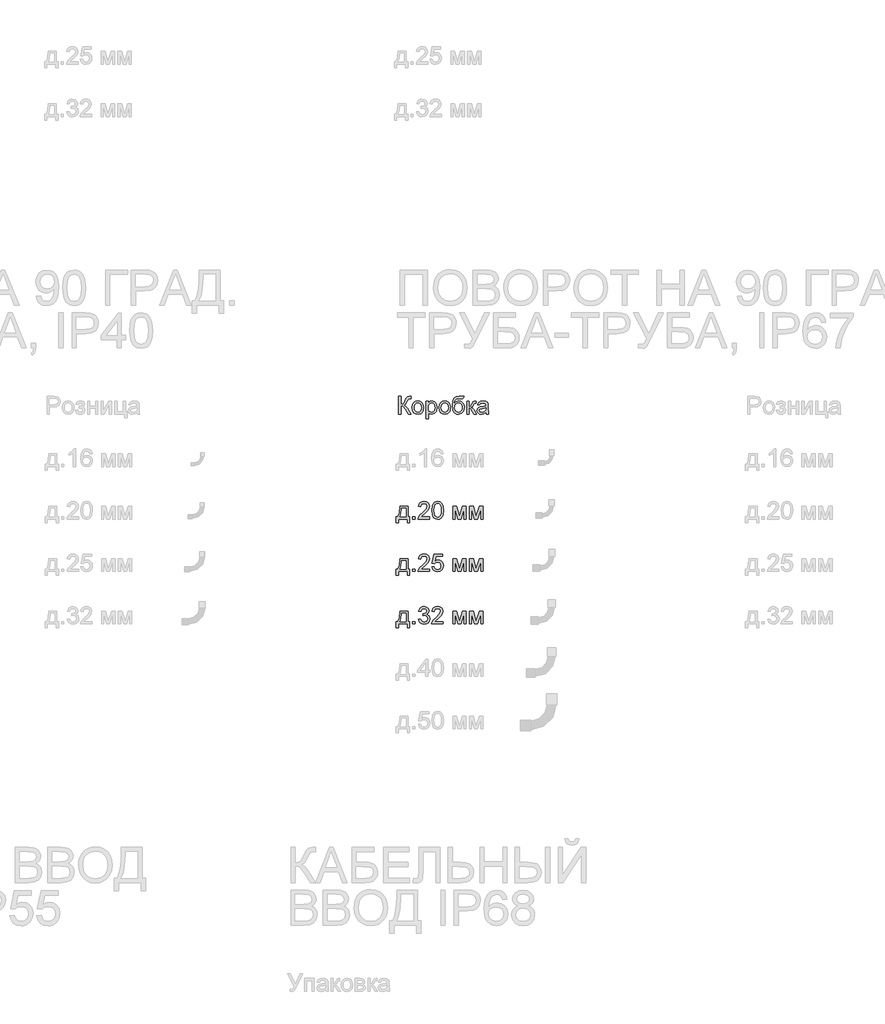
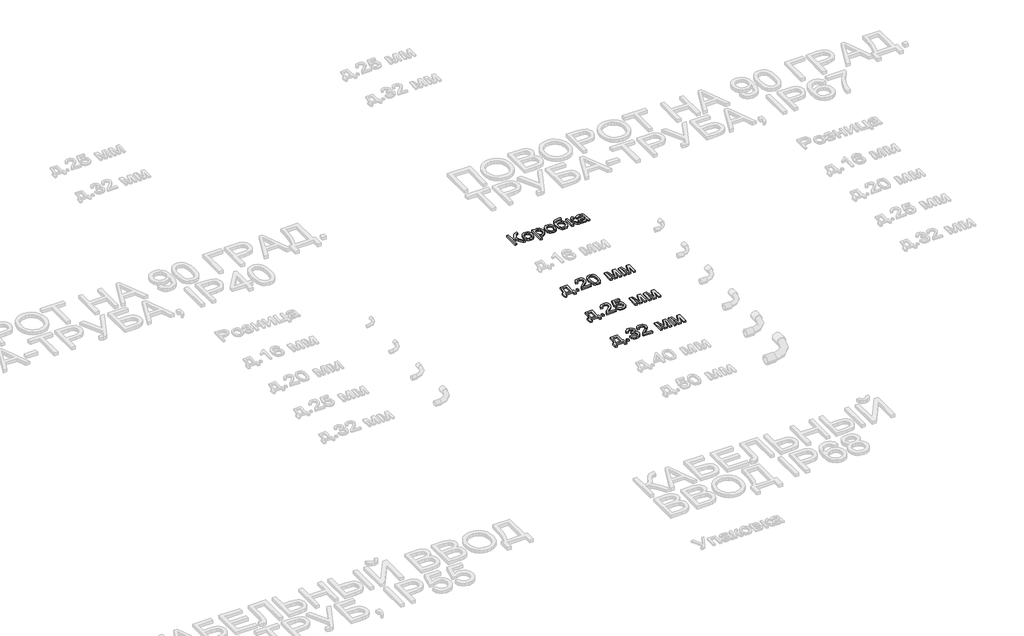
# One storey, part 65 of 98: 4 proxies.
"""IFC4 building model written with IfcOpenShell, lengths in millimetres."""

from ifc_helpers import new_model, si_unit, origin, origin_with_axes, place, context, project, spatial, polyline, outline, extrude, element, save

model = new_model("IFC4")

# Units and contexts
model_context = context("Model", 3, world=origin())
ifc_project = project(units=[si_unit("LENGTHUNIT", "METRE", prefix="MILLI")], contexts=[model_context])

# Site, building, storey
site = spatial("IfcSite", under=ifc_project)
building = spatial("IfcBuilding", under=site)
storey = spatial("IfcBuildingStorey", under=building, Name="Этаж 01", Elevation=0.0)

# Proxies
placement = place(None, origin())
element("IfcBuildingElementProxy", 1, Name="100", ObjectType="100", at=placement, inside=storey, context=model_context, shape_type="SweptSolid", body=[
    extrude(outline(polyline([(3974.2920808, -20659.0558563), (3986.8491196, -20659.0558563), (3986.8491196, -20703.005492), (4000.8899491, -20699.6822913), (4010.6878729, -20682.8700841), (4017.6163171, -20668.8292546), (4025.4644663, -20661.8762849), (4036.6848672, -20659.0558563), (4044.9254239, -20659.2030091), (4044.9254239, -20671.7600479), (4042.1540462, -20671.6864715), (4039.3826685, -20671.6128951), (4029.572482, -20674.6295274), (4022.1167402, -20687.5544482), (4013.2262586, -20703.2997976), (4004.5565063, -20708.4991965), (4014.2501969, -20714.1768419), (4023.8089974, -20726.0103794), (4044.9254239, -20759.5121665), (4030.3572969, -20759.5121665), (4012.5027574, -20731.2097783), (3999.9334559, -20716.4331848), (3986.8491196, -20712.4232711), (3986.8491196, -20759.5121665), (3974.2920808, -20759.5121665), (3974.2920808, -20659.0558563)])), origin_with_axes(), (0.0, 0.0, 1.0), 10.0),
    extrude(outline(polyline([(4051.2039433, -20722.6258651), (4053.9201387, -20704.8387706), (4062.0687249, -20692.3369141), (4072.1364288, -20686.2116789), (4084.1906955, -20684.1699338), (4097.3823307, -20686.656203), (4107.9190842, -20694.1150104), (4114.8260687, -20705.957745), (4117.1283968, -20721.5957955), (4113.0571694, -20743.9384953), (4101.1991064, -20756.5813732), (4084.1906955, -20761.0817963), (4070.8396448, -20758.6047242), (4060.315154, -20751.1735079), (4053.481746, -20739.082453), (4051.2039433, -20722.6258651)]), holes=[polyline([(4063.760982, -20722.6013396), (4065.2141159, -20733.9658276), (4069.5735176, -20742.0622972), (4076.1340798, -20746.9091424), (4084.1906955, -20748.5247575), (4092.210523, -20746.8999454), (4098.7588225, -20742.025509), (4103.1182242, -20733.8217405), (4104.571358, -20722.2089321), (4103.1090271, -20711.175538), (4098.7220343, -20703.189433), (4092.1645378, -20698.3425877), (4084.1906955, -20696.7269726), (4076.1340798, -20698.3364563), (4069.5735176, -20703.1649075), (4065.2141159, -20711.242983), (4063.760982, -20722.6013396)])]), origin_with_axes(), (0.0, 0.0, 1.0), 10.0),
    extrude(outline(polyline([(4131.2550654, -20787.7655037), (4131.2550654, -20685.7395637), (4143.8121042, -20685.7395637), (4143.8121042, -20698.0513478), (4152.4941193, -20687.6402873), (4164.2172922, -20684.1699338), (4180.1343199, -20689.0259762), (4190.5331176, -20702.7111864), (4194.0402593, -20722.0617793), (4190.0793965, -20742.4056537), (4178.5769527, -20756.2625422), (4162.6967133, -20761.0817963), (4151.770618, -20757.8566975), (4143.8121042, -20749.7019799), (4143.8121042, -20787.7655037), (4131.2550654, -20787.7655037)]), holes=[polyline([(4143.8121042, -20723.2144763), (4145.1702019, -20734.4716653), (4149.244495, -20742.34434), (4155.2562999, -20746.9796532), (4162.4269331, -20748.5247575), (4169.7140623, -20746.9244709), (4175.8791514, -20742.1236108), (4180.0822032, -20733.9627619), (4181.4832205, -20722.2825085), (4180.1159258, -20711.0866332), (4176.0140415, -20703.1035939), (4170.0114336, -20698.3211279), (4162.9419679, -20696.7269726), (4155.8449111, -20698.4222955), (4149.612377, -20703.5082641), (4145.2621724, -20711.8254628), (4143.8121042, -20723.2144763)])]), origin_with_axes(), (0.0, 0.0, 1.0), 10.0),
    extrude(outline(polyline([(4205.0276682, -20722.6258651), (4207.7438636, -20704.8387706), (4215.8924498, -20692.3369141), (4225.9601537, -20686.2116789), (4238.0144204, -20684.1699338), (4251.2060556, -20686.656203), (4261.7428091, -20694.1150104), (4268.6497936, -20705.957745), (4270.9521217, -20721.5957955), (4266.8808943, -20743.9384953), (4255.0228313, -20756.5813732), (4238.0144204, -20761.0817963), (4224.6633697, -20758.6047242), (4214.1388789, -20751.1735079), (4207.3054709, -20739.082453), (4205.0276682, -20722.6258651)]), holes=[polyline([(4217.584707, -20722.6013396), (4219.0378408, -20733.9658276), (4223.3972425, -20742.0622972), (4229.9578047, -20746.9091424), (4238.0144204, -20748.5247575), (4246.0342479, -20746.8999454), (4252.5825474, -20742.025509), (4256.9419491, -20733.8217405), (4258.395083, -20722.2089321), (4256.932752, -20711.175538), (4252.5457592, -20703.189433), (4245.9882627, -20698.3425877), (4238.0144204, -20696.7269726), (4229.9578047, -20698.3364563), (4223.3972425, -20703.1649075), (4219.0378408, -20711.242983), (4217.584707, -20722.6013396)])]), origin_with_axes(), (0.0, 0.0, 1.0), 10.0),
    extrude(outline(polyline([(4336.8765753, -20657.4862265), (4347.8639842, -20657.4862265), (4344.6266226, -20667.2841503), (4338.2254759, -20670.8280802), (4322.8480085, -20671.6128951), (4302.1362522, -20674.5069001), (4294.1900011, -20683.7775264), (4291.5044625, -20700.1850634), (4302.3815068, -20688.1675849), (4316.3978109, -20684.1699338), (4329.4637531, -20686.7113853), (4340.0648859, -20694.3357396), (4347.091432, -20706.2949702), (4349.433614, -20721.8410502), (4344.7860382, -20743.447986), (4333.761841, -20756.4832714), (4316.3978109, -20761.0817963), (4305.0639797, -20759.6010713), (4296.5689713, -20755.1588962), (4285.7164525, -20740.002158), (4281.9395306, -20707.8370089), (4284.3215666, -20683.7438039), (4291.4676743, -20669.0499838), (4303.5556635, -20661.5543882), (4320.7633439, -20659.0558563), (4334.7428597, -20658.7738134), (4336.8765753, -20657.4862265)]), holes=[polyline([(4336.8765753, -20721.4486427), (4335.5154119, -20711.5679454), (4331.4319217, -20703.6554169), (4324.8713595, -20698.4590837), (4316.0789798, -20696.7269726), (4306.9125868, -20698.5571855), (4300.1129012, -20704.0478243), (4295.9006524, -20712.598015), (4294.4965694, -20723.6068837), (4296.0478052, -20734.2785273), (4300.7015124, -20742.1113481), (4307.6299566, -20746.9214052), (4316.0054034, -20748.5247575), (4324.4237697, -20746.6700191), (4331.0885652, -20741.105804), (4335.4295727, -20732.4820369), (4336.8765753, -20721.4486427)])]), origin_with_axes(), (0.0, 0.0, 1.0), 10.0),
    extrude(outline(polyline([(4365.1299125, -20685.7395637), (4377.6869513, -20685.7395637), (4377.6869513, -20717.1321606), (4386.0991862, -20714.8758177), (4392.9908423, -20701.7301677), (4398.7175387, -20690.3871396), (4403.7697847, -20686.6960569), (4412.9545719, -20685.7395637), (4415.3580676, -20685.7395637), (4415.3580676, -20698.3701789), (4411.9735532, -20698.2966025), (4405.8421866, -20699.6209776), (4401.5257045, -20707.8860598), (4396.4611957, -20716.8255923), (4389.3610732, -20721.203388), (4397.2827989, -20726.0900872), (4405.0573717, -20736.3846517), (4418.4973273, -20759.5121665), (4404.2235058, -20759.5121665), (4391.0533304, -20736.875161), (4384.4314545, -20727.2979664), (4377.6869513, -20724.9803098), (4377.6869513, -20759.5121665), (4365.1299125, -20759.5121665), (4365.1299125, -20685.7395637)])), origin_with_axes(), (0.0, 0.0, 1.0), 10.0),
    extrude(outline(polyline([(4473.4343719, -20750.0943874), (4461.2574778, -20758.6047242), (4447.8052595, -20761.0817963), (4437.3114256, -20759.5918742), (4429.5705753, -20755.122108), (4424.7973064, -20748.3346852), (4423.2062168, -20739.8917934), (4425.6097125, -20729.9589795), (4431.9250201, -20722.7484924), (4440.7173998, -20718.6282141), (4451.5821814, -20716.7397532), (4473.3607955, -20712.4232711), (4473.4343719, -20709.6273679), (4469.9762811, -20700.3567416), (4456.0948672, -20696.7269726), (4443.3906756, -20699.1427311), (4437.3328854, -20707.7143815), (4424.7758466, -20706.1447517), (4430.2082374, -20693.8820185), (4441.1465954, -20686.6960569), (4457.7135479, -20684.1699338), (4472.9315998, -20686.4017513), (4481.5277758, -20692.0058203), (4485.378274, -20700.5284199), (4485.9914106, -20711.5158288), (4485.9914106, -20727.1385509), (4486.6290728, -20748.9539532), (4489.1306703, -20759.5121665), (4476.5736316, -20759.5121665), (4473.4343719, -20750.0943874)]), holes=[polyline([(4473.4343719, -20724.9803098), (4453.1763367, -20728.8308081), (4442.3728687, -20730.8664218), (4437.4800382, -20734.1773597), (4435.7632556, -20739.0088766), (4439.5033892, -20745.8024308), (4450.4785354, -20748.5247575), (4463.1827269, -20745.5203879), (4471.3742327, -20738.2485871), (4473.3607955, -20728.5365025), (4473.4343719, -20724.9803098)])]), origin_with_axes(), (0.0, 0.0, 1.0), 10.0),
])
element("IfcBuildingElementProxy", 2, Name="100", ObjectType="100", at=placement, inside=storey, context=model_context, shape_type="SweptSolid", body=[
    extrude(outline(polyline([(3980.8812818, -21285.7395637), (4027.9701772, -21285.7395637), (4027.9701772, -21346.9551277), (4037.3879562, -21346.9551277), (4037.3879562, -21379.9173545), (4024.8309175, -21379.9173545), (4024.8309175, -21359.5121665), (3973.0331326, -21359.5121665), (3973.0331326, -21379.9173545), (3960.4760938, -21379.9173545), (3960.4760938, -21346.9551277), (3968.324243, -21346.9551277), (3978.024065, -21323.0060098), (3980.8812818, -21285.7395637)]), holes=[polyline([(3991.8686907, -21298.2966025), (3988.9256347, -21326.905559), (3982.4509116, -21346.9551277), (4015.4131384, -21346.9551277), (4015.4131384, -21298.2966025), (3991.8686907, -21298.2966025)])]), origin_with_axes(), (0.0, 0.0, 1.0), 10.0),
    extrude(outline(polyline([(4054.6538845, -21359.5121665), (4054.6538845, -21346.9551277), (4067.2109233, -21346.9551277), (4067.2109233, -21359.5121665), (4054.6538845, -21359.5121665)])), origin_with_axes(), (0.0, 0.0, 1.0), 10.0),
    extrude(outline(polyline([(4151.970935, -21346.9551277), (4151.970935, -21359.5121665), (4086.0464815, -21359.5121665), (4087.3953821, -21350.8546768), (4095.0228022, -21337.5250859), (4110.7436261, -21322.9692216), (4132.4241383, -21302.0489988), (4137.8442664, -21287.8242283), (4132.7307067, -21276.3095219), (4119.3765902, -21271.6128951), (4105.4583881, -21276.1991573), (4100.1731501, -21288.8788234), (4087.6161113, -21287.3091935), (4090.6603348, -21275.1629563), (4097.2423569, -21266.2908689), (4107.0188209, -21260.8646095), (4119.6463704, -21259.0558563), (4132.3658903, -21261.0669445), (4142.1239603, -21267.1002093), (4148.3319689, -21276.1133182), (4150.4013052, -21287.0639389), (4148.1694877, -21298.9710528), (4140.7505342, -21311.2828369), (4122.7611046, -21328.4874515), (4108.3156049, -21340.5662437), (4102.6502222, -21346.9551277), (4151.970935, -21346.9551277)])), origin_with_axes(), (0.0, 0.0, 1.0), 10.0),
    extrude(outline(polyline([(4164.5279738, -21310.0933518), (4168.2190565, -21281.1900897), (4179.1819399, -21264.5250353), (4197.4902005, -21259.0558563), (4212.1564294, -21262.2932179), (4222.285447, -21271.6251578), (4228.1715589, -21286.4875904), (4230.4524273, -21310.0933518), (4226.7981328, -21338.8739865), (4215.8720376, -21355.5758291), (4207.6406779, -21359.7053045), (4197.4902005, -21361.0817963), (4184.4426524, -21358.6905633), (4174.534364, -21351.5168644), (4167.0295713, -21334.5268476), (4164.5279738, -21310.0933518)]), holes=[polyline([(4177.0850125, -21310.0688263), (4178.5565405, -21329.8210238), (4182.9711245, -21341.2529568), (4189.5439494, -21346.7068073), (4197.4902005, -21348.5247575), (4205.4364516, -21346.700676), (4212.0092766, -21341.2284313), (4216.4238606, -21329.7903669), (4217.8953885, -21310.0688263), (4216.4729115, -21290.7611529), (4212.2054804, -21279.2403151), (4205.6449181, -21273.5197501), (4197.3430477, -21271.6128951), (4189.4826358, -21273.2928895), (4183.1673282, -21278.3328729), (4178.6055915, -21290.5710806), (4177.0850125, -21310.0688263)])]), origin_with_axes(), (0.0, 0.0, 1.0), 10.0),
    extrude(outline(polyline([(4283.8198421, -21285.7395637), (4305.4267779, -21285.7395637), (4322.0795696, -21344.7968867), (4340.0322109, -21285.7395637), (4360.7317045, -21285.7395637), (4360.7317045, -21359.5121665), (4348.1746658, -21359.5121665), (4348.1746658, -21300.111487), (4330.1239225, -21359.5121665), (4313.6428092, -21359.5121665), (4296.3768808, -21297.2665329), (4296.3768808, -21359.5121665), (4283.8198421, -21359.5121665), (4283.8198421, -21285.7395637)])), origin_with_axes(), (0.0, 0.0, 1.0), 10.0),
    extrude(outline(polyline([(4379.5672627, -21285.7395637), (4401.1741985, -21285.7395637), (4417.8269902, -21344.7968867), (4435.7796316, -21285.7395637), (4456.4791251, -21285.7395637), (4456.4791251, -21359.5121665), (4443.9220864, -21359.5121665), (4443.9220864, -21300.111487), (4425.8713431, -21359.5121665), (4409.3902298, -21359.5121665), (4392.1243015, -21297.2665329), (4392.1243015, -21359.5121665), (4379.5672627, -21359.5121665), (4379.5672627, -21285.7395637)])), origin_with_axes(), (0.0, 0.0, 1.0), 10.0),
])
element("IfcBuildingElementProxy", 3, Name="100", ObjectType="100", at=placement, inside=storey, context=model_context, shape_type="SweptSolid", body=[
    extrude(outline(polyline([(3980.8812818, -21585.7395637), (4027.9701772, -21585.7395637), (4027.9701772, -21646.9551277), (4037.3879562, -21646.9551277), (4037.3879562, -21679.9173545), (4024.8309175, -21679.9173545), (4024.8309175, -21659.5121665), (3973.0331326, -21659.5121665), (3973.0331326, -21679.9173545), (3960.4760938, -21679.9173545), (3960.4760938, -21646.9551277), (3968.324243, -21646.9551277), (3978.024065, -21623.0060098), (3980.8812818, -21585.7395637)]), holes=[polyline([(3991.8686907, -21598.2966025), (3988.9256347, -21626.905559), (3982.4509116, -21646.9551277), (4015.4131384, -21646.9551277), (4015.4131384, -21598.2966025), (3991.8686907, -21598.2966025)])]), origin_with_axes(), (0.0, 0.0, 1.0), 10.0),
    extrude(outline(polyline([(4054.6538845, -21659.5121665), (4054.6538845, -21646.9551277), (4067.2109233, -21646.9551277), (4067.2109233, -21659.5121665), (4054.6538845, -21659.5121665)])), origin_with_axes(), (0.0, 0.0, 1.0), 10.0),
    extrude(outline(polyline([(4151.970935, -21646.9551277), (4151.970935, -21659.5121665), (4086.0464815, -21659.5121665), (4087.3953821, -21650.8546768), (4095.0228022, -21637.5250859), (4110.7436261, -21622.9692216), (4132.4241383, -21602.0489988), (4137.8442664, -21587.8242283), (4132.7307067, -21576.3095219), (4119.3765902, -21571.6128951), (4105.4583881, -21576.1991573), (4100.1731501, -21588.8788234), (4087.6161113, -21587.3091935), (4090.6603348, -21575.1629563), (4097.2423569, -21566.2908689), (4107.0188209, -21560.8646095), (4119.6463704, -21559.0558563), (4132.3658903, -21561.0669445), (4142.1239603, -21567.1002093), (4148.3319689, -21576.1133182), (4150.4013052, -21587.0639389), (4148.1694877, -21598.9710528), (4140.7505342, -21611.2828369), (4122.7611046, -21628.4874515), (4108.3156049, -21640.5662437), (4102.6502222, -21646.9551277), (4151.970935, -21646.9551277)])), origin_with_axes(), (0.0, 0.0, 1.0), 10.0),
    extrude(outline(polyline([(4164.5279738, -21632.8284591), (4177.0850125, -21631.2588292), (4183.4125829, -21644.1960127), (4196.5337074, -21648.5247575), (4205.5345535, -21647.019507), (4212.2790567, -21642.5037555), (4216.4913056, -21635.4986692), (4217.8953885, -21626.5254142), (4212.634676, -21611.6139307), (4206.0281285, -21607.5120464), (4196.7299111, -21606.1447517), (4185.705714, -21608.3275182), (4178.6546424, -21613.9929009), (4166.0976036, -21612.4232711), (4177.0850125, -21560.6254862), (4225.7435378, -21560.6254862), (4225.7435378, -21573.1825249), (4187.2385556, -21573.1825249), (4181.8674785, -21600.847251), (4190.8376678, -21595.4025974), (4200.2370528, -21593.5877129), (4211.9694227, -21595.8379245), (4221.7090986, -21602.5885591), (4228.2665951, -21612.8769922), (4230.4524273, -21625.7405993), (4228.4842586, -21638.2976381), (4222.5797526, -21649.0397923), (4211.2735126, -21658.0712953), (4196.4846564, -21661.0817963), (4184.1514125, -21659.1473501), (4174.3258976, -21653.3440117), (4167.5905914, -21644.3462312), (4164.5279738, -21632.8284591)])), origin_with_axes(), (0.0, 0.0, 1.0), 10.0),
    extrude(outline(polyline([(4283.8198421, -21585.7395637), (4305.4267779, -21585.7395637), (4322.0795696, -21644.7968867), (4340.0322109, -21585.7395637), (4360.7317045, -21585.7395637), (4360.7317045, -21659.5121665), (4348.1746658, -21659.5121665), (4348.1746658, -21600.111487), (4330.1239225, -21659.5121665), (4313.6428092, -21659.5121665), (4296.3768808, -21597.2665329), (4296.3768808, -21659.5121665), (4283.8198421, -21659.5121665), (4283.8198421, -21585.7395637)])), origin_with_axes(), (0.0, 0.0, 1.0), 10.0),
    extrude(outline(polyline([(4379.5672627, -21585.7395637), (4401.1741985, -21585.7395637), (4417.8269902, -21644.7968867), (4435.7796316, -21585.7395637), (4456.4791251, -21585.7395637), (4456.4791251, -21659.5121665), (4443.9220864, -21659.5121665), (4443.9220864, -21600.111487), (4425.8713431, -21659.5121665), (4409.3902298, -21659.5121665), (4392.1243015, -21597.2665329), (4392.1243015, -21659.5121665), (4379.5672627, -21659.5121665), (4379.5672627, -21585.7395637)])), origin_with_axes(), (0.0, 0.0, 1.0), 10.0),
])
element("IfcBuildingElementProxy", 4, Name="100", ObjectType="100", at=placement, inside=storey, context=model_context, shape_type="SweptSolid", body=[
    extrude(outline(polyline([(3980.8812818, -21885.7395637), (4027.9701772, -21885.7395637), (4027.9701772, -21946.9551277), (4037.3879562, -21946.9551277), (4037.3879562, -21979.9173545), (4024.8309175, -21979.9173545), (4024.8309175, -21959.5121665), (3973.0331326, -21959.5121665), (3973.0331326, -21979.9173545), (3960.4760938, -21979.9173545), (3960.4760938, -21946.9551277), (3968.324243, -21946.9551277), (3978.024065, -21923.0060098), (3980.8812818, -21885.7395637)]), holes=[polyline([(3991.8686907, -21898.2966025), (3988.9256347, -21926.905559), (3982.4509116, -21946.9551277), (4015.4131384, -21946.9551277), (4015.4131384, -21898.2966025), (3991.8686907, -21898.2966025)])]), origin_with_axes(), (0.0, 0.0, 1.0), 10.0),
    extrude(outline(polyline([(4054.6538845, -21959.5121665), (4054.6538845, -21946.9551277), (4067.2109233, -21946.9551277), (4067.2109233, -21959.5121665), (4054.6538845, -21959.5121665)])), origin_with_axes(), (0.0, 0.0, 1.0), 10.0),
    extrude(outline(polyline([(4087.6161113, -21932.8284591), (4100.1731501, -21931.2588292), (4107.1015943, -21944.4780556), (4120.0633033, -21948.5247575), (4128.671742, -21947.1329373), (4135.3181434, -21942.9574767), (4140.9835261, -21929.1741646), (4135.3671943, -21916.1879302), (4121.0933729, -21911.049845), (4112.2887305, -21912.4232711), (4113.686682, -21899.8662323), (4115.6977703, -21900.0133851), (4129.9470662, -21896.4081416), (4134.692744, -21891.8341421), (4136.2746365, -21885.3226308), (4131.6883743, -21875.5001815), (4119.8670996, -21871.6128951), (4107.898672, -21875.5369697), (4101.7427799, -21887.3091935), (4089.1857412, -21885.7395637), (4092.8829552, -21874.4639805), (4099.4619116, -21866.0456142), (4108.4627577, -21860.8032958), (4119.4256412, -21859.0558563), (4134.5701166, -21862.5016843), (4145.1651181, -21871.9194634), (4148.8316753, -21884.5868668), (4145.3490591, -21896.1628869), (4135.0483632, -21904.47702), (4148.7335734, -21913.0609332), (4153.5405649, -21929.3948938), (4151.1370692, -21941.6331015), (4143.926582, -21951.860221), (4133.0434064, -21958.7764025), (4119.6218449, -21961.0817963), (4107.4817391, -21959.1136276), (4097.5979761, -21953.2091216), (4090.7247142, -21944.1776186), (4087.6161113, -21932.8284591)])), origin_with_axes(), (0.0, 0.0, 1.0), 10.0),
    extrude(outline(polyline([(4228.8827975, -21946.9551277), (4228.8827975, -21959.5121665), (4162.9583439, -21959.5121665), (4164.3072446, -21950.8546768), (4171.9346646, -21937.5250859), (4187.6554885, -21922.9692216), (4209.3360008, -21902.0489988), (4214.7561289, -21887.8242283), (4209.6425691, -21876.3095219), (4196.2884527, -21871.6128951), (4182.3702505, -21876.1991573), (4177.0850125, -21888.8788234), (4164.5279738, -21887.3091935), (4167.5721973, -21875.1629563), (4174.1542193, -21866.2908689), (4183.9306833, -21860.8646095), (4196.5582328, -21859.0558563), (4209.2777528, -21861.0669445), (4219.0358227, -21867.1002093), (4225.2438314, -21876.1133182), (4227.3131676, -21887.0639389), (4225.0813502, -21898.9710528), (4217.6623966, -21911.2828369), (4199.672967, -21928.4874515), (4185.2274674, -21940.5662437), (4179.5620846, -21946.9551277), (4228.8827975, -21946.9551277)])), origin_with_axes(), (0.0, 0.0, 1.0), 10.0),
    extrude(outline(polyline([(4283.8198421, -21885.7395637), (4305.4267779, -21885.7395637), (4322.0795696, -21944.7968867), (4340.0322109, -21885.7395637), (4360.7317045, -21885.7395637), (4360.7317045, -21959.5121665), (4348.1746658, -21959.5121665), (4348.1746658, -21900.111487), (4330.1239225, -21959.5121665), (4313.6428092, -21959.5121665), (4296.3768808, -21897.2665329), (4296.3768808, -21959.5121665), (4283.8198421, -21959.5121665), (4283.8198421, -21885.7395637)])), origin_with_axes(), (0.0, 0.0, 1.0), 10.0),
    extrude(outline(polyline([(4379.5672627, -21885.7395637), (4401.1741985, -21885.7395637), (4417.8269902, -21944.7968867), (4435.7796316, -21885.7395637), (4456.4791251, -21885.7395637), (4456.4791251, -21959.5121665), (4443.9220864, -21959.5121665), (4443.9220864, -21900.111487), (4425.8713431, -21959.5121665), (4409.3902298, -21959.5121665), (4392.1243015, -21897.2665329), (4392.1243015, -21959.5121665), (4379.5672627, -21959.5121665), (4379.5672627, -21885.7395637)])), origin_with_axes(), (0.0, 0.0, 1.0), 10.0),
])

save(model, "model.ifc")
